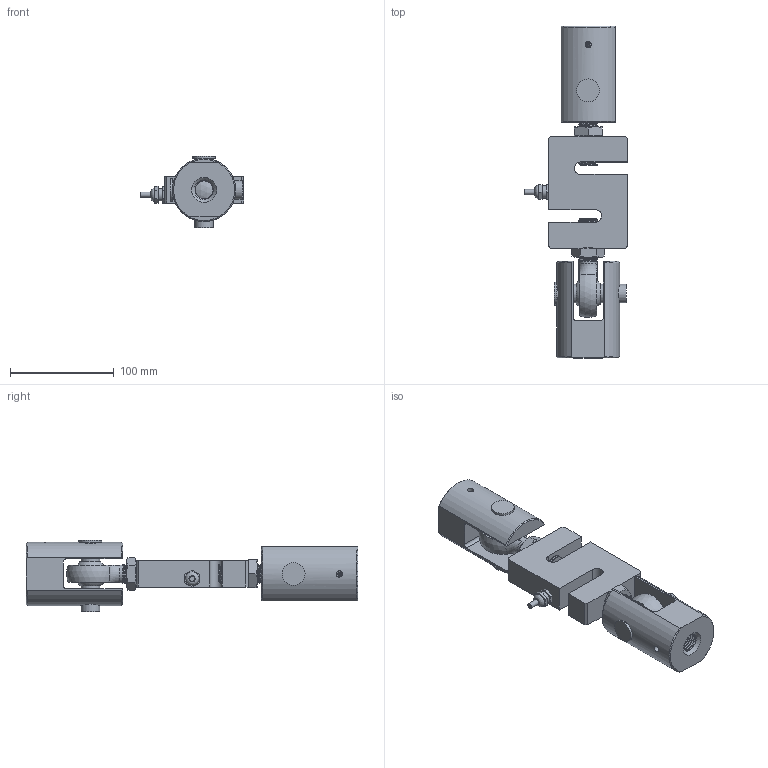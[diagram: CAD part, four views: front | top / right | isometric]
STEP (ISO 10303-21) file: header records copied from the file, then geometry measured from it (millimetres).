
FILE_DESCRIPTION(/* description */ (''),/* implementation_level */ '2;1');
FILE_NAME(/* name */ 'C:/Users/fardi/Dropbox/Work/Anyload/Load Cell Models/Product Catalog 3D/Weight Modules/101/101BHM2/101BHM2-2t v5.step',/* time_stamp */ '2020-05-13T10:21:26-07:00',/* author */ (''),/* organization */ (''),/* preprocessor_version */ 'ST-DEVELOPER v18.1',/* originating_system */ 'Autodesk Translation Framework v9.3.0.1241',/* authorisation */ '');
FILE_SCHEMA (('AUTOMOTIVE_DESIGN { 1 0 10303 214 3 1 1 }'));
Length unit declared in the file: millimetre
Products named in the file (9): 101BHM2-2t; Eye Bolt v1; 101BH-(2-5)t; Connector v1; End Mounts; Eye Bolt v1(Mirror); 90370A107; End Mounts(Mirror); 90370A107(Mirror)
Assembly tree (8 placements, depth 3):
  101BHM2-2t
    Eye Bolt v1
    101BH-(2-5)t
      Connector v1
    End Mounts
    Eye Bolt v1(Mirror)
    90370A107
    End Mounts(Mirror)
    90370A107(Mirror)
Bounding box: 99.56 x 320 x 69 mm (x, y, z)
Volume: 568681.5 mm3; surface area: 128471.8 mm2
Topology: 10 solids, 13 shells, 373 faces, 991 edges, 651 vertices
Faces by surface type: cylinder 201, plane 95, cone 42, bspline 25, sphere 6, torus 4
Full cylindrical faces by diameter (mm): 5.1 x1, 6 x2, 10 x1, 12 x1, 13 x1, 14.752 x2, 14.938 x32, 15.519 x8, 17.519 x20, 17.791 x32, 18 x10, 18.293 x8, 19 x4, 20.293 x18, 22 x2, 26.6 x1, 27.8 x2, 29.4 x2
Entity records: 31560 total; most frequent: CARTESIAN_POINT 22928, ORIENTED_EDGE 1998, DIRECTION 1395, EDGE_CURVE 999, VERTEX_POINT 659, AXIS2_PLACEMENT_3D 539, B_SPLINE_CURVE_WITH_KNOTS 424, EDGE_LOOP 408
